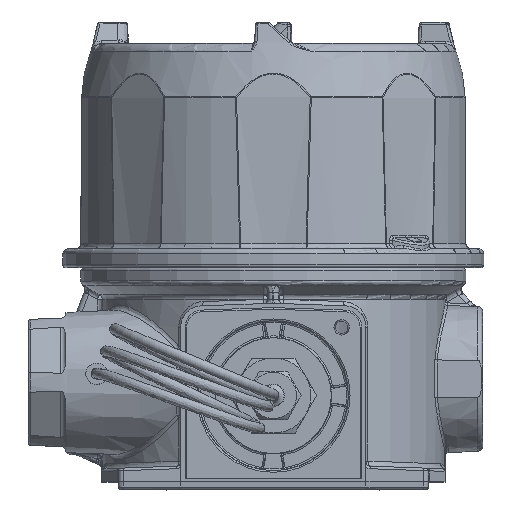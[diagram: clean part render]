
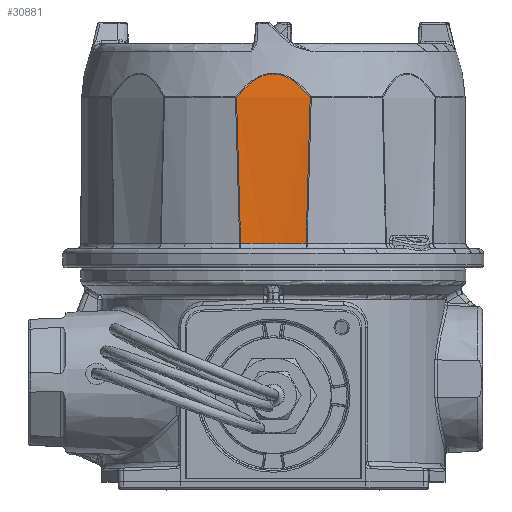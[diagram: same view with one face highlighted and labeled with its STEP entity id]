
A CAD part, top view. The second image highlights one B-rep face of the part: STEP entity #30881.
In plain terms, the highlighted conical face has half-angle 0.5 degrees and reference radius 83.16 mm.
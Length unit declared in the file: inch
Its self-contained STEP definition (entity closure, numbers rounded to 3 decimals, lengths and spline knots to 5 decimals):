
#464 = CARTESIAN_POINT ( 'NONE',  ( -0.38207, 2.87205, 2.24611 ) ) ;
#2497 = CARTESIAN_POINT ( 'NONE',  ( 0.05421, 4.84065, 2.20685 ) ) ;
#3142 = CIRCLE ( 'NONE', #71244, 3.25367 ) ;
#3571 = DIRECTION ( 'NONE',  ( 0., -1., 0. ) ) ;
#4319 = CARTESIAN_POINT ( 'NONE',  ( 0., 2.87145, 5.47727 ) ) ;
#4378 = CARTESIAN_POINT ( 'NONE',  ( 0.4145, 4.0042, 2.24011 ) ) ;
#5275 = CARTESIAN_POINT ( 'NONE',  ( -0.42941, 4.57016, 2.23711 ) ) ;
#6763 = CARTESIAN_POINT ( 'NONE',  ( -0.39883, 3.43826, 2.24311 ) ) ;
#7137 = CARTESIAN_POINT ( 'NONE',  ( -0.38208, 2.87234, 2.2461 ) ) ;
#7469 = CARTESIAN_POINT ( 'NONE',  ( -0.37362, 4.63765, 2.22946 ) ) ;
#7836 = CARTESIAN_POINT ( 'NONE',  ( 0.14896, 4.81213, 2.20999 ) ) ;
#8983 = CARTESIAN_POINT ( 'NONE',  ( -0.31254, 4.69988, 2.22247 ) ) ;
#9675 = B_SPLINE_CURVE_WITH_KNOTS ( 'NONE', 3,
 ( #11915, #464, #35849, #70178 ),
 .UNSPECIFIED., .F., .F.,
 ( 4, 4 ),
 ( 0., 0.00002 ),
 .UNSPECIFIED. ) ;
#10892 = CONICAL_SURFACE ( 'NONE', #43732, 3.274, 0.009 ) ;
#11915 = CARTESIAN_POINT ( 'NONE',  ( -0.38208, 2.87234, 2.2461 ) ) ;
#13356 = ORIENTED_EDGE ( 'NONE', *, *, #66681, .T. ) ;
#13590 = CARTESIAN_POINT ( 'NONE',  ( -0.42941, 4.57016, 2.23711 ) ) ;
#14324 = CARTESIAN_POINT ( 'NONE',  ( 0.31159, 4.70079, 2.22237 ) ) ;
#14723 = CARTESIAN_POINT ( 'NONE',  ( -0.02303, 4.84485, 2.20639 ) ) ;
#15083 = CARTESIAN_POINT ( 'NONE',  ( -0.28008, 4.72908, 2.21921 ) ) ;
#16687 = VERTEX_POINT ( 'NONE', #20295 ) ;
#18189 = FACE_OUTER_BOUND ( 'NONE', #25014, .T. ) ;
#18545 = CARTESIAN_POINT ( 'NONE',  ( 0.38206, 2.87145, 2.24611 ) ) ;
#19290 = CARTESIAN_POINT ( 'NONE',  ( 0.38206, 2.87175, 2.24611 ) ) ;
#19423 = VERTEX_POINT ( 'NONE', #41414 ) ;
#20295 = CARTESIAN_POINT ( 'NONE',  ( -0.38208, 2.87234, 2.2461 ) ) ;
#20416 = CARTESIAN_POINT ( 'NONE',  ( -0.20819, 4.78027, 2.21352 ) ) ;
#20801 = CARTESIAN_POINT ( 'NONE',  ( 0.04332, 4.84226, 2.20667 ) ) ;
#22572 = CARTESIAN_POINT ( 'NONE',  ( -0.38206, 2.87145, 2.24611 ) ) ;
#23066 = CARTESIAN_POINT ( 'NONE',  ( 0.38208, 2.87234, 2.2461 ) ) ;
#23686 = CARTESIAN_POINT ( 'NONE',  ( 0.38208, 2.87234, 2.2461 ) ) ;
#24282 = ORIENTED_EDGE ( 'NONE', *, *, #42097, .T. ) ;
#25014 = EDGE_LOOP ( 'NONE', ( #46635, #24282, #29105, #13356, #53617, #52468 ) ) ;
#26062 = DIRECTION ( 'NONE',  ( 0., 0., -1. ) ) ;
#26497 = CARTESIAN_POINT ( 'NONE',  ( 0.08653, 4.83432, 2.20755 ) ) ;
#29105 = ORIENTED_EDGE ( 'NONE', *, *, #31144, .T. ) ;
#30648 = VERTEX_POINT ( 'NONE', #22572 ) ;
#30881 = ADVANCED_FACE ( 'NONE', ( #18189 ), #10892, .F. ) ;
#31045 = CARTESIAN_POINT ( 'NONE',  ( 0.16907, 4.80243, 2.21107 ) ) ;
#31144 = EDGE_CURVE ( 'NONE', #62234, #19423, #64466, .T. ) ;
#31436 = CARTESIAN_POINT ( 'NONE',  ( 0.02129, 4.84441, 2.20643 ) ) ;
#32183 = CARTESIAN_POINT ( 'NONE',  ( -0.40219, 4.60458, 2.2332 ) ) ;
#32852 = B_SPLINE_CURVE_WITH_KNOTS ( 'NONE', 3,
 ( #53950, #60417, #72971, #14324, #66892, #38316, #36797, #31045, #7836, #44058, #26497, #2497, #20801, #31436, #61180, #14723, #71458, #37159, #60806, #54710, #67269, #20416, #42920, #15083, #8983, #7469, #32183, #13590 ),
 .UNSPECIFIED., .F., .F.,
 ( 4, 2, 2, 2, 2, 2, 2, 2, 2, 2, 2, 2, 2, 4 ),
 ( 0., 0.00336, 0.00673, 0.00841, 0.01009, 0.01177, 0.01261, 0.01345, 0.01514, 0.01682, 0.0185, 0.02018, 0.02355, 0.02691 ),
 .UNSPECIFIED. ) ;
#34848 = B_SPLINE_CURVE_WITH_KNOTS ( 'NONE', 3,
 ( #18545, #19290, #42540, #65763 ),
 .UNSPECIFIED., .F., .F.,
 ( 4, 4 ),
 ( 0., 0.00002 ),
 .UNSPECIFIED. ) ;
#35849 = CARTESIAN_POINT ( 'NONE',  ( -0.38206, 2.87175, 2.24611 ) ) ;
#36041 = DIRECTION ( 'NONE',  ( 0., 1., 0. ) ) ;
#36797 = CARTESIAN_POINT ( 'NONE',  ( 0.20759, 4.78065, 2.21348 ) ) ;
#37159 = CARTESIAN_POINT ( 'NONE',  ( -0.08794, 4.83395, 2.20759 ) ) ;
#38316 = CARTESIAN_POINT ( 'NONE',  ( 0.22595, 4.76863, 2.21481 ) ) ;
#39028 = VERTEX_POINT ( 'NONE', #65626 ) ;
#41058 = CARTESIAN_POINT ( 'NONE',  ( 0., 5.201, 5.47727 ) ) ;
#41414 = CARTESIAN_POINT ( 'NONE',  ( 0.42941, 4.57016, 2.23711 ) ) ;
#42097 = EDGE_CURVE ( 'NONE', #39028, #62234, #34848, .T. ) ;
#42201 = CARTESIAN_POINT ( 'NONE',  ( -0.42941, 4.57016, 2.23711 ) ) ;
#42540 = CARTESIAN_POINT ( 'NONE',  ( 0.38207, 2.87205, 2.24611 ) ) ;
#42920 = CARTESIAN_POINT ( 'NONE',  ( -0.22665, 4.76816, 2.21486 ) ) ;
#43732 = AXIS2_PLACEMENT_3D ( 'NONE', #41058, #36041, #70735 ) ;
#44058 = CARTESIAN_POINT ( 'NONE',  ( 0.10761, 4.8281, 2.20823 ) ) ;
#46042 = EDGE_CURVE ( 'NONE', #30648, #39028, #3142, .T. ) ;
#46635 = ORIENTED_EDGE ( 'NONE', *, *, #46042, .T. ) ;
#48025 = EDGE_CURVE ( 'NONE', #16687, #30648, #9675, .T. ) ;
#50445 = VERTEX_POINT ( 'NONE', #5275 ) ;
#50522 = EDGE_CURVE ( 'NONE', #50445, #16687, #67728, .T. ) ;
#52468 = ORIENTED_EDGE ( 'NONE', *, *, #48025, .T. ) ;
#53617 = ORIENTED_EDGE ( 'NONE', *, *, #50522, .T. ) ;
#53950 = CARTESIAN_POINT ( 'NONE',  ( 0.42941, 4.57016, 2.23711 ) ) ;
#53993 = CARTESIAN_POINT ( 'NONE',  ( -0.4145, 4.0042, 2.24011 ) ) ;
#54710 = CARTESIAN_POINT ( 'NONE',  ( -0.15039, 4.81148, 2.21007 ) ) ;
#56595 = CARTESIAN_POINT ( 'NONE',  ( 0.39883, 3.43826, 2.24311 ) ) ;
#60417 = CARTESIAN_POINT ( 'NONE',  ( 0.40211, 4.60468, 2.23319 ) ) ;
#60806 = CARTESIAN_POINT ( 'NONE',  ( -0.10939, 4.82751, 2.2083 ) ) ;
#61180 = CARTESIAN_POINT ( 'NONE',  ( 0.01011, 4.84494, 2.20638 ) ) ;
#62234 = VERTEX_POINT ( 'NONE', #23686 ) ;
#64466 = B_SPLINE_CURVE_WITH_KNOTS ( 'NONE', 3,
 ( #23066, #56595, #4378, #69149 ),
 .UNSPECIFIED., .F., .F.,
 ( 4, 4 ),
 ( 0., 0.04314 ),
 .UNSPECIFIED. ) ;
#65626 = CARTESIAN_POINT ( 'NONE',  ( 0.38206, 2.87145, 2.24611 ) ) ;
#65763 = CARTESIAN_POINT ( 'NONE',  ( 0.38208, 2.87234, 2.2461 ) ) ;
#66681 = EDGE_CURVE ( 'NONE', #19423, #50445, #32852, .T. ) ;
#66892 = CARTESIAN_POINT ( 'NONE',  ( 0.27897, 4.72997, 2.21911 ) ) ;
#67269 = CARTESIAN_POINT ( 'NONE',  ( -0.17008, 4.8019, 2.21112 ) ) ;
#67728 = B_SPLINE_CURVE_WITH_KNOTS ( 'NONE', 3,
 ( #42201, #53993, #6763, #7137 ),
 .UNSPECIFIED., .F., .F.,
 ( 4, 4 ),
 ( 0., 0.04314 ),
 .UNSPECIFIED. ) ;
#69149 = CARTESIAN_POINT ( 'NONE',  ( 0.42941, 4.57016, 2.23711 ) ) ;
#70178 = CARTESIAN_POINT ( 'NONE',  ( -0.38206, 2.87145, 2.24611 ) ) ;
#70735 = DIRECTION ( 'NONE',  ( 0., 0., -1. ) ) ;
#71244 = AXIS2_PLACEMENT_3D ( 'NONE', #4319, #3571, #26062 ) ;
#71458 = CARTESIAN_POINT ( 'NONE',  ( -0.04485, 4.84258, 2.20664 ) ) ;
#72971 = CARTESIAN_POINT ( 'NONE',  ( 0.37332, 4.63801, 2.22942 ) ) ;
